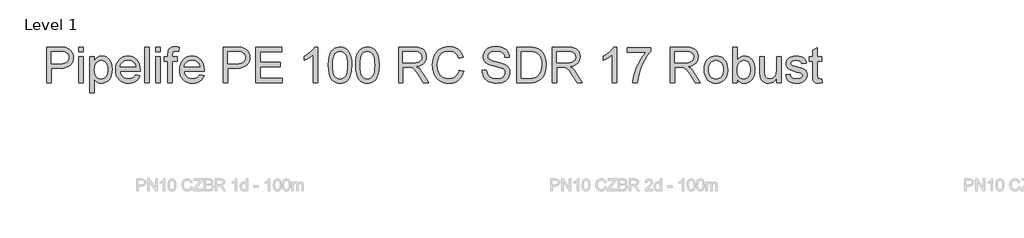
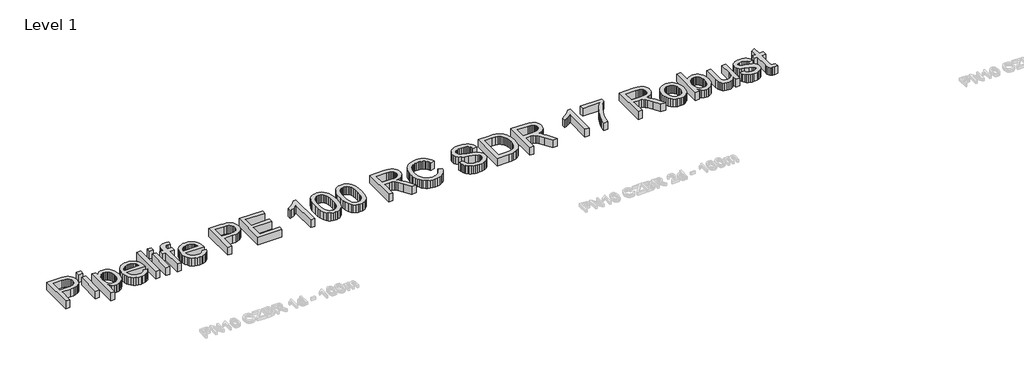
# One storey, part 4 of 13: 1 proxy.
"""IFC4 building model written with IfcOpenShell, lengths in millimetres."""

from ifc_helpers import new_model, si_unit, origin, origin_with_axes, place, context, project, spatial, polyline, outline, extrude, element, save

model = new_model("IFC4")

# Units and contexts
model_context = context("Model", 3, world=origin())
ifc_project = project(units=[si_unit("LENGTHUNIT", "METRE", prefix="MILLI")], contexts=[model_context])

# Site, building, storey
site = spatial("IfcSite", under=ifc_project)
building = spatial("IfcBuilding", under=site)
storey = spatial("IfcBuildingStorey", under=building, Name="Level 1", Elevation=0.0)

# Proxy
placement = place(None, origin())
element("IfcBuildingElementProxy", 1, Name="600mm Arial", ObjectType="600mm Arial", at=placement, inside=storey, context=model_context, shape_type="SweptSolid", body=[
    extrude(outline(polyline([(-16966.7426717, -19009.5373902), (-16966.7426717, -18406.7995293), (-16743.3647242, -18406.7995293), (-16691.3462101, -18408.2342691), (-16653.3072118, -18412.5384884), (-16613.152892, -18423.2622486), (-16580.0986947, -18440.7182492), (-16553.4824324, -18465.6974367), (-16532.6419174, -18498.9907573), (-16519.1774363, -18538.2621602), (-16514.689276, -18581.175595), (-16517.7197039, -18618.1753266), (-16526.8109877, -18652.2136083), (-16541.9631274, -18683.2904398), (-16563.176123, -18711.4058213), (-16592.2985814, -18734.7111457), (-16631.1791098, -18751.357806), (-16679.8177081, -18761.3458021), (-16738.2143763, -18764.6751342), (-16891.4004391, -18764.6751342), (-16891.4004391, -19009.5373902), (-16966.7426717, -19009.5373902)]), holes=[polyline([(-16891.4004391, -18689.3329016), (-16733.7997923, -18689.3329016), (-16697.5634158, -18687.6038562), (-16666.992422, -18682.4167201), (-16642.0868109, -18673.7714932), (-16622.8465826, -18661.6681755), (-16608.4899877, -18646.4286639), (-16598.2352771, -18628.374855), (-16592.0824507, -18607.5067488), (-16590.0315086, -18583.8243453), (-16594.8691569, -18549.9792018), (-16609.3821016, -18521.431559), (-16631.767721, -18499.9472504), (-16660.2233933, -18487.2921098), (-16689.2860709, -18483.4293489), (-16735.5656259, -18482.1417619), (-16891.4004391, -18482.1417619), (-16891.4004391, -18689.3329016)])]), origin_with_axes(), (0.0, 0.0, 1.0), 150.0),
    extrude(outline(polyline([(-16420.5114852, -19009.5373902), (-16420.5114852, -18566.9017736), (-16345.1692526, -18566.9017736), (-16345.1692526, -19009.5373902), (-16420.5114852, -19009.5373902)])), origin_with_axes(), (0.0, 0.0, 1.0), 150.0),
    extrude(outline(polyline([(-16420.5114852, -18482.1417619), (-16420.5114852, -18406.7995293), (-16345.1692526, -18406.7995293), (-16345.1692526, -18482.1417619), (-16420.5114852, -18482.1417619)])), origin_with_axes(), (0.0, 0.0, 1.0), 150.0),
    extrude(outline(polyline([(-16232.1559037, -19179.0574135), (-16232.1559037, -18566.9017736), (-16156.8136711, -18566.9017736), (-16156.8136711, -18640.7724782), (-16132.2391538, -18604.3337666), (-16104.7215806, -18578.3061154), (-16072.6422706, -18562.6895247), (-16034.3825431, -18557.4839945), (-16008.1065716, -18559.3050104), (-15983.4308868, -18564.768058), (-15960.3554886, -18573.8731374), (-15938.8803772, -18586.6202485), (-15919.4746019, -18602.6782976), (-15902.6072124, -18621.7161909), (-15888.2782087, -18643.7339283), (-15876.4875908, -18668.7315098), (-15860.7054532, -18724.2449029), (-15855.4447407, -18784.8350675), (-15861.3860349, -18849.269599), (-15868.8126527, -18878.9346834), (-15879.2099175, -18906.8983135), (-15892.4352753, -18932.429324), (-15908.3461716, -18954.7965493), (-15926.9426064, -18973.9999894), (-15948.2245798, -18990.0396444), (-15971.1482267, -19002.6901865), (-15994.6696817, -19011.726288), (-16018.788945, -19017.1479489), (-16043.5060166, -19018.9551692), (-16078.1421064, -19014.117521), (-16109.0625881, -18999.6045763), (-16135.5316977, -18977.6972035), (-16156.8136711, -18950.6762709), (-16156.8136711, -19179.0574135), (-16232.1559037, -19179.0574135)]), holes=[polyline([(-16156.8136711, -18791.751249), (-16154.7765246, -18828.0612019), (-16148.6650849, -18859.2943833), (-16138.4793522, -18885.4507932), (-16124.2193263, -18906.5304315), (-16107.0530327, -18922.7540275), (-16088.1484967, -18934.3423104), (-16067.5057182, -18941.2952801), (-16045.1246974, -18943.6129366), (-16022.4217797, -18941.2125066), (-16001.4019222, -18934.0112166), (-15982.0651249, -18922.0090665), (-15964.4113876, -18905.2060563), (-15949.7007063, -18883.3630629), (-15939.1930769, -18856.2409628), (-15932.8884992, -18823.8397561), (-15930.7869733, -18786.1594427), (-15932.8379154, -18750.1621895), (-15938.9907418, -18718.9841904), (-15949.2454524, -18692.6254454), (-15963.6020472, -18671.0859546), (-15980.8097276, -18654.3473238), (-15999.6176946, -18642.391159), (-16020.0259482, -18635.2174601), (-16042.0344886, -18632.8262271), (-16063.9740511, -18635.3692114), (-16084.6168295, -18642.9981643), (-16103.962824, -18655.7130857), (-16122.0120344, -18673.5139758), (-16137.2377504, -18696.1617111), (-16148.1132619, -18723.4171684), (-16154.6385688, -18755.2803477), (-16156.8136711, -18791.751249)])]), origin_with_axes(), (0.0, 0.0, 1.0), 150.0),
    extrude(outline(polyline([(-15460.7809362, -18877.6884831), (-15386.9102316, -18887.1062622), (-15398.2363985, -18916.6931716), (-15413.5264939, -18942.766808), (-15432.7805179, -18965.3271714), (-15455.9984703, -18984.3742617), (-15482.9412279, -18999.5034087), (-15513.3696674, -19010.3099424), (-15547.2837889, -19016.7938625), (-15584.6835922, -19018.9551692), (-15631.4321967, -19015.2257655), (-15673.0856356, -19004.0375543), (-15709.6439089, -18985.3905357), (-15741.1070165, -18959.2847096), (-15766.4081008, -18926.446643), (-15784.4803038, -18887.6029029), (-15795.3236256, -18842.7534891), (-15798.9380662, -18791.8984018), (-15795.2868374, -18739.3188677), (-15784.333151, -18692.9749333), (-15766.077007, -18652.8665988), (-15740.5184054, -18618.9938641), (-15709.1380712, -18592.0832961), (-15673.4167294, -18572.8614619), (-15633.3543802, -18561.3283613), (-15588.9510233, -18557.4839945), (-15545.9778078, -18561.3191643), (-15507.1156735, -18572.8246737), (-15472.3646205, -18592.0005227), (-15441.7246489, -18618.8467113), (-15416.7132717, -18652.6458696), (-15398.8480023, -18692.6806277), (-15388.1288407, -18738.9509857), (-15384.5557868, -18791.4569434), (-15384.9972452, -18811.7640296), (-15723.5958336, -18811.7640296), (-15719.2318334, -18841.8291856), (-15710.5544168, -18868.1603394), (-15697.5635839, -18890.757491), (-15680.2593345, -18909.6206403), (-15659.598162, -18924.4922699), (-15636.5365594, -18935.1148625), (-15611.0745268, -18941.4884181), (-15583.2120642, -18943.6129366), (-15543.1129267, -18939.6765993), (-15509.3413596, -18927.8675872), (-15481.8973627, -18907.4501365), (-15460.7809362, -18877.6884831)]), holes=[polyline([(-15723.5958336, -18736.4217969), (-15459.8980194, -18736.4217969), (-15470.0883507, -18696.6169651), (-15478.8531392, -18680.9635862), (-15490.064343, -18668.1428986), (-15510.6105525, -18652.6918548), (-15533.9894533, -18641.655395), (-15560.2010454, -18635.0335191), (-15589.2453289, -18632.8262271), (-15615.7374311, -18634.5874622), (-15640.0314384, -18639.8711673), (-15662.1273507, -18648.6773426), (-15682.0251681, -18661.0059879), (-15698.7224122, -18676.2868863), (-15711.2166044, -18693.9498206), (-15719.5077449, -18713.9947908), (-15723.5958336, -18736.4217969)])]), origin_with_axes(), (0.0, 0.0, 1.0), 150.0),
    extrude(outline(polyline([(-15309.2135542, -19009.5373902), (-15309.2135542, -18406.7995293), (-15233.8713216, -18406.7995293), (-15233.8713216, -19009.5373902), (-15309.2135542, -19009.5373902)])), origin_with_axes(), (0.0, 0.0, 1.0), 150.0),
    extrude(outline(polyline([(-15120.8579727, -18482.1417619), (-15120.8579727, -18406.7995293), (-15045.5157401, -18406.7995293), (-15045.5157401, -18482.1417619), (-15120.8579727, -18482.1417619)])), origin_with_axes(), (0.0, 0.0, 1.0), 150.0),
    extrude(outline(polyline([(-15120.8579727, -19009.5373902), (-15120.8579727, -18566.9017736), (-15045.5157401, -18566.9017736), (-15045.5157401, -19009.5373902), (-15120.8579727, -19009.5373902)])), origin_with_axes(), (0.0, 0.0, 1.0), 150.0),
    extrude(outline(polyline([(-14913.666833, -19009.5373902), (-14913.666833, -18642.2440062), (-14979.5912865, -18642.2440062), (-14979.5912865, -18566.9017736), (-14913.666833, -18566.9017736), (-14913.666833, -18522.3144758), (-14911.6802702, -18485.4159116), (-14905.7205819, -18459.480231), (-14890.5638437, -18434.4274671), (-14867.1665488, -18414.5986276), (-14834.4250512, -18401.6859695), (-14791.235705, -18397.3817502), (-14758.5309956, -18399.4418894), (-14722.5153483, -18405.6223069), (-14733.5518082, -18476.25565), (-14776.9618836, -18472.7239828), (-14805.6014969, -18475.8509798), (-14824.418661, -18485.2319706), (-14834.8481155, -18503.1478238), (-14838.3246004, -18531.8794076), (-14838.3246004, -18566.9017736), (-14753.5645887, -18566.9017736), (-14753.5645887, -18642.2440062), (-14838.3246004, -18642.2440062), (-14838.3246004, -19009.5373902), (-14913.666833, -19009.5373902)])), origin_with_axes(), (0.0, 0.0, 1.0), 150.0),
    extrude(outline(polyline([(-14377.7363424, -18877.6884831), (-14303.8656378, -18887.1062622), (-14315.1918047, -18916.6931716), (-14330.4819001, -18942.766808), (-14349.7359241, -18965.3271714), (-14372.9538765, -18984.3742617), (-14399.8966341, -18999.5034087), (-14430.3250736, -19010.3099424), (-14464.2391951, -19016.7938625), (-14501.6389984, -19018.9551692), (-14548.3876029, -19015.2257655), (-14590.0410418, -19004.0375543), (-14626.5993151, -18985.3905357), (-14658.0624227, -18959.2847096), (-14683.363507, -18926.446643), (-14701.43571, -18887.6029029), (-14712.2790318, -18842.7534891), (-14715.8934724, -18791.8984018), (-14712.2422436, -18739.3188677), (-14701.2885572, -18692.9749333), (-14683.0324132, -18652.8665988), (-14657.4738116, -18618.9938641), (-14626.0934774, -18592.0832961), (-14590.3721356, -18572.8614619), (-14550.3097864, -18561.3283613), (-14505.9064295, -18557.4839945), (-14462.933214, -18561.3191643), (-14424.0710797, -18572.8246737), (-14389.3200267, -18592.0005227), (-14358.6800551, -18618.8467113), (-14333.6686779, -18652.6458696), (-14315.8034085, -18692.6806277), (-14305.0842469, -18738.9509857), (-14301.511193, -18791.4569434), (-14301.9526514, -18811.7640296), (-14640.5512398, -18811.7640296), (-14636.1872396, -18841.8291856), (-14627.509823, -18868.1603394), (-14614.5189901, -18890.757491), (-14597.2147407, -18909.6206403), (-14576.5535682, -18924.4922699), (-14553.4919656, -18935.1148625), (-14528.029933, -18941.4884181), (-14500.1674704, -18943.6129366), (-14460.0683329, -18939.6765993), (-14426.2967658, -18927.8675872), (-14398.8527689, -18907.4501365), (-14377.7363424, -18877.6884831)]), holes=[polyline([(-14640.5512398, -18736.4217969), (-14376.8534256, -18736.4217969), (-14387.0437569, -18696.6169651), (-14395.8085454, -18680.9635862), (-14407.0197492, -18668.1428986), (-14427.5659587, -18652.6918548), (-14450.9448595, -18641.655395), (-14477.1564516, -18635.0335191), (-14506.2007351, -18632.8262271), (-14532.6928373, -18634.5874622), (-14556.9868446, -18639.8711673), (-14579.0827569, -18648.6773426), (-14598.9805743, -18661.0059879), (-14615.6778184, -18676.2868863), (-14628.1720106, -18693.9498206), (-14636.4631511, -18713.9947908), (-14640.5512398, -18736.4217969)])]), origin_with_axes(), (0.0, 0.0, 1.0), 150.0),
    extrude(outline(polyline([(-13981.3067044, -19009.5373902), (-13981.3067044, -18406.7995293), (-13757.928757, -18406.7995293), (-13705.9102428, -18408.2342691), (-13667.8712445, -18412.5384884), (-13627.7169248, -18423.2622486), (-13594.6627275, -18440.7182492), (-13568.0464651, -18465.6974367), (-13547.2059501, -18498.9907573), (-13533.7414691, -18538.2621602), (-13529.2533087, -18581.175595), (-13532.2837367, -18618.1753266), (-13541.3750205, -18652.2136083), (-13556.5271602, -18683.2904398), (-13577.7401557, -18711.4058213), (-13606.8626142, -18734.7111457), (-13645.7431425, -18751.357806), (-13694.3817408, -18761.3458021), (-13752.778409, -18764.6751342), (-13905.9644718, -18764.6751342), (-13905.9644718, -19009.5373902), (-13981.3067044, -19009.5373902)]), holes=[polyline([(-13905.9644718, -18689.3329016), (-13748.3638251, -18689.3329016), (-13712.1274486, -18687.6038562), (-13681.5564548, -18682.4167201), (-13656.6508437, -18673.7714932), (-13637.4106153, -18661.6681755), (-13623.0540205, -18646.4286639), (-13612.7993099, -18628.374855), (-13606.6464835, -18607.5067488), (-13604.5955414, -18583.8243453), (-13609.4331896, -18549.9792018), (-13623.9461343, -18521.431559), (-13646.3317537, -18499.9472504), (-13674.787426, -18487.2921098), (-13703.8501037, -18483.4293489), (-13750.1296587, -18482.1417619), (-13905.9644718, -18482.1417619), (-13905.9644718, -18689.3329016)])]), origin_with_axes(), (0.0, 0.0, 1.0), 150.0),
    extrude(outline(polyline([(-13425.6577389, -19009.5373902), (-13425.6577389, -18406.7995293), (-12992.4399014, -18406.7995293), (-12992.4399014, -18482.1417619), (-13350.3155063, -18482.1417619), (-13350.3155063, -18661.0795643), (-13011.2754595, -18661.0795643), (-13011.2754595, -18736.4217969), (-13350.3155063, -18736.4217969), (-13350.3155063, -18934.1951576), (-12983.0221223, -18934.1951576), (-12983.0221223, -19009.5373902), (-13425.6577389, -19009.5373902)])), origin_with_axes(), (0.0, 0.0, 1.0), 150.0),
    extrude(outline(polyline([(-12380.2842614, -19009.5373902), (-12455.626494, -19009.5373902), (-12455.626494, -18539.8256587), (-12487.0804046, -18565.2646987), (-12526.9956011, -18590.6669505), (-12568.8973603, -18612.8686289), (-12606.3109592, -18628.7059488), (-12606.3109592, -18557.4839945), (-12547.1371403, -18525.2943199), (-12495.8727843, -18486.9978042), (-12455.4609471, -18446.2732674), (-12428.8446848, -18406.7995293), (-12380.2842614, -18406.7995293), (-12380.2842614, -19009.5373902)])), origin_with_axes(), (0.0, 0.0, 1.0), 150.0),
    extrude(outline(polyline([(-12201.346459, -18713.0245021), (-12195.8098349, -18616.5474488), (-12188.8890549, -18575.6343724), (-12179.1999628, -18539.6049295), (-12166.7839455, -18508.1648145), (-12151.6823896, -18481.0197218), (-12133.8952951, -18458.1696514), (-12113.4226621, -18439.6146032), (-12090.1955126, -18425.2580084), (-12064.1448689, -18415.0032978), (-12035.2707308, -18408.8504714), (-12003.5730984, -18406.7995293), (-11957.1463906, -18411.6555716), (-11915.5757251, -18426.2236986), (-11880.8108766, -18449.9336932), (-11854.8016195, -18482.2153383), (-11835.156721, -18522.7927223), (-11819.484948, -18571.3899339), (-11809.2210403, -18633.1021386), (-11805.7997377, -18713.0245021), (-11811.2811795, -18808.9497323), (-11818.1329816, -18849.7248529), (-11827.7255047, -18885.7083106), (-11840.044953, -18917.1622212), (-11855.077531, -18944.3487006), (-11872.8232387, -18967.2677489), (-11893.2820762, -18985.9193661), (-11916.5368168, -19000.37253), (-11942.670234, -19010.6962185), (-11971.6823279, -19016.8904315), (-12003.5730984, -19018.9551692), (-12045.0701874, -19015.3683198), (-12081.8583869, -19004.6077714), (-12113.9376969, -18986.6735242), (-12141.3081173, -18961.565578), (-12167.5748918, -18916.1781368), (-12186.3368736, -18859.6254771), (-12197.5940626, -18791.9075989), (-12201.346459, -18713.0245021)]), holes=[polyline([(-12126.0042263, -18712.8773493), (-12123.7969344, -18778.37414), (-12117.1750585, -18831.390534), (-12106.1385986, -18871.9265313), (-12090.6875548, -18899.982132), (-12071.9991495, -18919.070609), (-12051.2506049, -18932.7052355), (-12028.4419212, -18940.8860113), (-12003.5730984, -18943.6129366), (-11978.7042755, -18940.8768143), (-11955.8955918, -18932.6684473), (-11935.1470472, -18918.9878356), (-11916.4586419, -18899.8349792), (-11901.0075981, -18871.7333933), (-11889.9711382, -18831.206593), (-11883.3492623, -18778.2545783), (-11881.1419704, -18712.8773493), (-11883.2756859, -18649.1142024), (-11889.6768326, -18597.031309), (-11900.3454105, -18556.6286689), (-11915.2814195, -18527.9062821), (-11933.6571252, -18507.8843045), (-11954.644793, -18493.5828919), (-11978.244423, -18485.0020444), (-12004.4560151, -18482.1417619), (-12029.1960793, -18484.6617535), (-12051.6184869, -18492.2217286), (-12071.723238, -18504.8216869), (-12089.5103324, -18522.4616286), (-12105.476411, -18553.7315981), (-12116.8807529, -18595.8908748), (-12123.723358, -18648.9394585), (-12126.0042263, -18712.8773493)])]), origin_with_axes(), (0.0, 0.0, 1.0), 150.0),
    extrude(outline(polyline([(-11739.8752842, -18713.0245021), (-11734.3386602, -18616.5474488), (-11727.4178801, -18575.6343724), (-11717.7287881, -18539.6049295), (-11705.3127708, -18508.1648145), (-11690.2112149, -18481.0197218), (-11672.4241204, -18458.1696514), (-11651.9514874, -18439.6146032), (-11628.7243379, -18425.2580084), (-11602.6736941, -18415.0032978), (-11573.799556, -18408.8504714), (-11542.1019236, -18406.7995293), (-11495.6752158, -18411.6555716), (-11454.1045504, -18426.2236986), (-11419.3397018, -18449.9336932), (-11393.3304448, -18482.2153383), (-11373.6855462, -18522.7927223), (-11358.0137732, -18571.3899339), (-11347.7498655, -18633.1021386), (-11344.328563, -18713.0245021), (-11349.8100047, -18808.9497323), (-11356.6618069, -18849.7248529), (-11366.2543299, -18885.7083106), (-11378.5737782, -18917.1622212), (-11393.6063562, -18944.3487006), (-11411.352064, -18967.2677489), (-11431.8109014, -18985.9193661), (-11455.0656421, -19000.37253), (-11481.1990593, -19010.6962185), (-11510.2111531, -19016.8904315), (-11542.1019236, -19018.9551692), (-11583.5990127, -19015.3683198), (-11620.3872122, -19004.6077714), (-11652.4665222, -18986.6735242), (-11679.8369426, -18961.565578), (-11706.1037171, -18916.1781368), (-11724.8656988, -18859.6254771), (-11736.1228879, -18791.9075989), (-11739.8752842, -18713.0245021)]), holes=[polyline([(-11664.5330516, -18712.8773493), (-11662.3257596, -18778.37414), (-11655.7038837, -18831.390534), (-11644.6674239, -18871.9265313), (-11629.2163801, -18899.982132), (-11610.5279747, -18919.070609), (-11589.7794302, -18932.7052355), (-11566.9707465, -18940.8860113), (-11542.1019236, -18943.6129366), (-11517.2331007, -18940.8768143), (-11494.424417, -18932.6684473), (-11473.6758725, -18918.9878356), (-11454.9874671, -18899.8349792), (-11439.5364233, -18871.7333933), (-11428.4999635, -18831.206593), (-11421.8780876, -18778.2545783), (-11419.6707956, -18712.8773493), (-11421.8045112, -18649.1142024), (-11428.2056579, -18597.031309), (-11438.8742358, -18556.6286689), (-11453.8102448, -18527.9062821), (-11472.1859504, -18507.8843045), (-11493.1736182, -18493.5828919), (-11516.7732482, -18485.0020444), (-11542.9848404, -18482.1417619), (-11567.7249046, -18484.6617535), (-11590.1473122, -18492.2217286), (-11610.2520632, -18504.8216869), (-11628.0391577, -18522.4616286), (-11644.0052363, -18553.7315981), (-11655.4095781, -18595.8908748), (-11662.2521832, -18648.9394585), (-11664.5330516, -18712.8773493)])]), origin_with_axes(), (0.0, 0.0, 1.0), 150.0),
    extrude(outline(polyline([(-11014.7062953, -19009.5373902), (-11014.7062953, -18406.7995293), (-10754.9816067, -18406.7995293), (-10685.1759981, -18410.8646253), (-10634.3898887, -18423.0599135), (-10614.7909754, -18432.753604), (-10597.2705954, -18445.5742916), (-10581.8287486, -18461.5219761), (-10568.4654352, -18480.5966575), (-10557.6818942, -18501.7728649), (-10549.9793649, -18524.025127), (-10545.3578473, -18547.3534441), (-10543.8173415, -18571.7578159), (-10546.3695228, -18602.7150858), (-10554.0260669, -18631.1339699), (-10566.7869736, -18657.0144683), (-10584.652243, -18680.3565809), (-10607.8518013, -18700.4153467), (-10636.6155748, -18716.4458046), (-10670.9435634, -18728.4479547), (-10710.8357673, -18736.4217969), (-10686.0037326, -18752.6453929), (-10668.0143031, -18768.6482597), (-10637.1490037, -18805.2525182), (-10606.9458919, -18846.1977843), (-10506.4405308, -19009.5373902), (-10593.9964456, -19009.5373902), (-10672.428887, -18884.6046646), (-10729.0827143, -18801.9047921), (-10750.1439585, -18777.7901273), (-10768.8875461, -18762.8357242), (-10804.7192525, -18748.4883264), (-10848.4236335, -18745.839576), (-10939.3640627, -18745.839576), (-10939.3640627, -19009.5373902), (-11014.7062953, -19009.5373902)]), holes=[polyline([(-10939.3640627, -18670.4973434), (-10770.7269561, -18670.4973434), (-10722.2952914, -18667.8301989), (-10684.7161456, -18659.8287656), (-10656.4260202, -18645.9596143), (-10635.8614167, -18625.6893164), (-10623.3350347, -18601.1699814), (-10619.1595741, -18574.5537191), (-10621.1507354, -18555.2858996), (-10627.1242193, -18537.8023078), (-10637.0800258, -18522.1029436), (-10651.0181549, -18508.1878071), (-10669.2605033, -18496.7926623), (-10692.1289678, -18488.6532732), (-10719.6235485, -18483.7696397), (-10751.7442452, -18482.1417619), (-10939.3640627, -18482.1417619), (-10939.3640627, -18670.4973434)])]), origin_with_axes(), (0.0, 0.0, 1.0), 150.0),
    extrude(outline(polyline([(-9988.168376, -18795.2829162), (-9912.8261434, -18814.7070855), (-9927.7345612, -18861.5614561), (-9947.5909919, -18902.5021237), (-9972.3954354, -18937.5290881), (-10002.1478918, -18966.6423495), (-10036.1769763, -18989.5292082), (-10073.8113045, -19005.8769643), (-10115.0508761, -19015.685618), (-10159.8956913, -19018.9551692), (-10205.839554, -19016.4811628), (-10247.2860593, -19009.0591436), (-10284.2352072, -18996.6891115), (-10316.6869977, -18979.3710666), (-10345.0874877, -18957.3625262), (-10369.8827342, -18930.9210078), (-10391.0727371, -18900.0465114), (-10408.6574965, -18864.7390369), (-10422.4668669, -18826.5252946), (-10432.3307029, -18786.9319949), (-10438.2490044, -18745.9591377), (-10440.2217716, -18703.606723), (-10437.9914871, -18658.1640995), (-10431.3006333, -18615.7197143), (-10420.1492103, -18576.2735674), (-10404.5372181, -18539.8256587), (-10384.8141446, -18506.9783951), (-10361.3294778, -18478.3341832), (-10334.0832175, -18453.8930232), (-10303.0753638, -18433.6549149), (-10269.358979, -18417.7854054), (-10233.9871252, -18406.4500414), (-10196.9598023, -18399.648823), (-10158.2770105, -18397.3817502), (-10115.1842333, -18400.3156091), (-10075.6691085, -18409.1171858), (-10039.7316361, -18423.7864804), (-10007.3718161, -18444.3234928), (-9979.1230774, -18470.185597), (-9955.5188489, -18500.8301672), (-9936.5591306, -18536.2572034), (-9922.2439224, -18576.4667054), (-9997.5861551, -18594.4193468), (-10009.4503494, -18564.7910506), (-10023.7057767, -18539.4761708), (-10040.352437, -18518.4747074), (-10059.3903302, -18501.7866604), (-10080.9298211, -18489.071739), (-10105.081274, -18479.9896522), (-10131.8446892, -18474.5404002), (-10161.2200665, -18472.7239828), (-10195.0192248, -18474.7381367), (-10225.9305095, -18480.7805985), (-10253.9539204, -18490.8513681), (-10279.0894578, -18504.9504456), (-10301.0198232, -18522.4432345), (-10319.4277185, -18542.6951383), (-10334.3131438, -18565.7061571), (-10345.6760989, -18591.4762908), (-10360.078679, -18646.6218019), (-10364.879539, -18703.4595702), (-10359.1957622, -18773.0628437), (-10352.0910412, -18804.3328133), (-10342.1444317, -18833.2483381), (-10329.1949855, -18859.2346025), (-10313.0817541, -18881.7167909), (-10293.8047376, -18900.6949034), (-10271.3639359, -18916.1689398), (-10246.8491994, -18928.1756884), (-10221.3503786, -18936.7519374), (-10194.8674735, -18941.8976868), (-10167.400484, -18943.6129366), (-10134.6451909, -18941.276886), (-10104.5110569, -18934.268734), (-10076.9980822, -18922.5884806), (-10052.1062667, -18906.2361259), (-10030.4242216, -18885.2852463), (-10012.5405582, -18859.8094181), (-9998.4552763, -18829.8086414), (-9988.168376, -18795.2829162)])), origin_with_axes(), (0.0, 0.0, 1.0), 150.0),
    extrude(outline(polyline([(-9602.0394338, -18802.3462505), (-9526.6972012, -18802.3462505), (-9518.0519743, -18844.1560392), (-9502.4169895, -18877.7620595), (-9478.0264133, -18904.4335041), (-9443.1144119, -18925.4395661), (-9400.4401005, -18939.069594), (-9352.7625939, -18943.6129366), (-9310.7872583, -18940.17324), (-9274.0358469, -18929.85415), (-9244.2557994, -18913.5201894), (-9223.1945552, -18892.0358809), (-9210.6681733, -18867.3693931), (-9206.4927126, -18841.4888948), (-9209.6197096, -18816.270584), (-9219.0007005, -18794.4735758), (-9238.0569878, -18775.8771409), (-9270.2098742, -18760.2605502), (-9379.9122851, -18731.4921782), (-9451.9251857, -18712.454285), (-9498.0024056, -18694.3360967), (-9535.507975, -18668.9890272), (-9562.0874492, -18638.2708806), (-9577.9247691, -18602.8438445), (-9583.2038757, -18563.3701064), (-9581.5713993, -18540.9339032), (-9576.6739703, -18519.2426611), (-9568.5115885, -18498.29638), (-9557.084254, -18478.0950599), (-9542.5207255, -18459.4618369), (-9524.9497617, -18443.2198468), (-9504.3713626, -18429.3690897), (-9480.7855282, -18417.9095655), (-9427.7737327, -18402.513704), (-9369.0965545, -18397.3817502), (-9305.5265457, -18402.7528273), (-9249.9027881, -18418.8660587), (-9225.5673941, -18430.8682088), (-9204.2118443, -18445.3903506), (-9185.8361386, -18462.432484), (-9170.4402771, -18481.9946091), (-9158.1438214, -18503.5065088), (-9149.0663332, -18526.3979659), (-9143.2078124, -18550.6689805), (-9140.5682591, -18576.3195526), (-9215.9104917, -18576.3195526), (-9220.950475, -18552.2784643), (-9229.7428547, -18531.3643728), (-9242.2876308, -18513.5772784), (-9258.5848031, -18498.9171809), (-9278.9378745, -18487.4576567), (-9303.6503475, -18479.2722823), (-9332.7222222, -18474.3610577), (-9366.1534985, -18472.7239828), (-9400.6516326, -18474.3426636), (-9430.1281775, -18479.1987059), (-9454.5831331, -18487.2921098), (-9474.0164995, -18498.6228753), (-9488.8237498, -18512.2437061), (-9499.4003572, -18527.2073063), (-9505.7463216, -18543.5136757), (-9507.8616431, -18561.1628144), (-9506.3625239, -18576.3471438), (-9501.8651666, -18590.1151275), (-9494.3695709, -18602.4667655), (-9483.875737, -18613.4020578), (-9467.3578354, -18623.7579359), (-9441.3485783, -18634.2241787), (-9360.8559978, -18655.487758), (-9277.7882433, -18675.6844795), (-9227.5355627, -18693.3060271), (-9184.5853398, -18720.6396594), (-9167.9800663, -18736.7069055), (-9154.6213513, -18754.3744383), (-9144.3528451, -18773.5502873), (-9137.0181978, -18794.142482), (-9131.15048, -18839.5759084), (-9132.8381387, -18863.1433487), (-9137.9011146, -18886.0210103), (-9146.3394079, -18908.2088931), (-9158.1530185, -18929.7069972), (-9173.1350127, -18949.6829896), (-9191.078457, -18967.3045371), (-9211.9833514, -18982.5716399), (-9235.8496958, -18995.484298), (-9261.9831131, -19005.7528041), (-9289.6892258, -19013.0874514), (-9349.8195379, -19018.9551692), (-9388.3597755, -19017.3732767), (-9423.6350603, -19012.6275989), (-9455.6453924, -19004.718136), (-9484.3907718, -18993.644888), (-9510.0459424, -18979.3894607), (-9532.7856482, -18961.93346), (-9552.6098893, -18941.276886), (-9569.5186655, -18917.4197386), (-9583.1394963, -18891.13457), (-9593.0999014, -18863.1939325), (-9599.3998805, -18833.597826), (-9602.0394338, -18802.3462505)])), origin_with_axes(), (0.0, 0.0, 1.0), 150.0),
    extrude(outline(polyline([(-9018.1371311, -19009.5373902), (-9018.1371311, -18406.7995293), (-8810.2102274, -18406.7995293), (-8748.0749584, -18408.970033), (-8702.641532, -18415.4815444), (-8654.5961435, -18432.2201751), (-8614.0555476, -18458.5973142), (-8591.7159134, -18480.1551991), (-8572.3745175, -18504.5089872), (-8556.0313599, -18531.6586784), (-8542.6864405, -18561.6042728), (-8532.3213653, -18594.0698589), (-8524.9177402, -18628.7795252), (-8518.99484, -18704.9310982), (-8523.0047538, -18769.623147), (-8535.034495, -18826.5528858), (-8553.3550184, -18875.0213386), (-8576.2372785, -18914.3295298), (-8602.5776293, -18945.3603761), (-8631.272425, -18968.9967943), (-8664.2162576, -18986.5263714), (-8703.3037196, -18999.2366943), (-8748.6083873, -19006.9622162), (-8800.2038371, -19009.5373902), (-9018.1371311, -19009.5373902)]), holes=[polyline([(-8942.7948985, -18934.1951576), (-8809.4744634, -18934.1951576), (-8754.3289524, -18931.4728308), (-8712.5007695, -18923.3058505), (-8680.9364943, -18910.1724633), (-8656.5827062, -18892.5509157), (-8630.4079023, -18859.9381768), (-8610.7446096, -18817.7237179), (-8598.4389569, -18765.7235979), (-8594.3370726, -18703.7538758), (-8596.346628, -18660.0127066), (-8602.3752942, -18621.6426145), (-8612.4230712, -18588.6435995), (-8626.489959, -18561.0156616), (-8643.4355234, -18538.1334015), (-8662.1193303, -18519.3714198), (-8682.5413795, -18504.7297164), (-8704.7016712, -18494.2082913), (-8748.0381702, -18485.1583942), (-8811.5346026, -18482.1417619), (-8942.7948985, -18482.1417619), (-8942.7948985, -18934.1951576)])]), origin_with_axes(), (0.0, 0.0, 1.0), 150.0),
    extrude(outline(polyline([(-8415.3992702, -19009.5373902), (-8415.3992702, -18406.7995293), (-8155.6745816, -18406.7995293), (-8085.868973, -18410.8646253), (-8035.0828636, -18423.0599135), (-8015.4839503, -18432.753604), (-7997.9635703, -18445.5742916), (-7982.5217235, -18461.5219761), (-7969.15841, -18480.5966575), (-7958.3748691, -18501.7728649), (-7950.6723398, -18524.025127), (-7946.0508222, -18547.3534441), (-7944.5103164, -18571.7578159), (-7947.0624977, -18602.7150858), (-7954.7190417, -18631.1339699), (-7967.4799484, -18657.0144683), (-7985.3452178, -18680.3565809), (-8008.5447762, -18700.4153467), (-8037.3085497, -18716.4458046), (-8071.6365383, -18728.4479547), (-8111.5287422, -18736.4217969), (-8086.6967075, -18752.6453929), (-8068.7072779, -18768.6482597), (-8037.8419785, -18805.2525182), (-8007.6388667, -18846.1977843), (-7907.1335057, -19009.5373902), (-7994.6894205, -19009.5373902), (-8073.1218619, -18884.6046646), (-8129.7756891, -18801.9047921), (-8150.8369334, -18777.7901273), (-8169.580521, -18762.8357242), (-8205.4122273, -18748.4883264), (-8249.1166084, -18745.839576), (-8340.0570376, -18745.839576), (-8340.0570376, -19009.5373902), (-8415.3992702, -19009.5373902)]), holes=[polyline([(-8340.0570376, -18670.4973434), (-8171.419931, -18670.4973434), (-8122.9882663, -18667.8301989), (-8085.4091205, -18659.8287656), (-8057.1189951, -18645.9596143), (-8036.5543916, -18625.6893164), (-8024.0280096, -18601.1699814), (-8019.852549, -18574.5537191), (-8021.8437103, -18555.2858996), (-8027.8171942, -18537.8023078), (-8037.7730007, -18522.1029436), (-8051.7111298, -18508.1878071), (-8069.9534782, -18496.7926623), (-8092.8219427, -18488.6532732), (-8120.3165233, -18483.7696397), (-8152.43722, -18482.1417619), (-8340.0570376, -18482.1417619), (-8340.0570376, -18670.4973434)])]), origin_with_axes(), (0.0, 0.0, 1.0), 150.0),
    extrude(outline(polyline([(-7322.9368973, -19009.5373902), (-7398.2791299, -19009.5373902), (-7398.2791299, -18539.8256587), (-7429.7330405, -18565.2646987), (-7469.648237, -18590.6669505), (-7511.5499962, -18612.8686289), (-7548.9635952, -18628.7059488), (-7548.9635952, -18557.4839945), (-7489.7897762, -18525.2943199), (-7438.5254202, -18486.9978042), (-7398.113583, -18446.2732674), (-7371.4973207, -18406.7995293), (-7322.9368973, -18406.7995293), (-7322.9368973, -19009.5373902)])), origin_with_axes(), (0.0, 0.0, 1.0), 150.0),
    extrude(outline(polyline([(-7143.9990949, -18491.559541), (-7143.9990949, -18416.2173083), (-6748.4523736, -18416.2173083), (-6748.4523736, -18477.1385667), (-6804.8302894, -18548.4892797), (-6860.6563822, -18639.2273738), (-6909.8973872, -18741.0755042), (-6929.7860076, -18793.0618286), (-6946.5200399, -18845.7563259), (-6964.4726812, -18924.0784027), (-6974.4790715, -19009.5373902), (-7049.8213041, -19009.5373902), (-7041.6727179, -18931.877501), (-7019.8757097, -18839.5759084), (-7004.0062001, -18790.2107432), (-6985.0188906, -18741.7376918), (-6962.9137813, -18694.1567542), (-6937.690872, -18647.4679305), (-6882.4349963, -18562.2480663), (-6823.7946063, -18491.559541), (-7143.9990949, -18491.559541)])), origin_with_axes(), (0.0, 0.0, 1.0), 150.0),
    extrude(outline(polyline([(-6418.830106, -19009.5373902), (-6418.830106, -18406.7995293), (-6159.1054174, -18406.7995293), (-6089.2998088, -18410.8646253), (-6038.5136994, -18423.0599135), (-6018.9147861, -18432.753604), (-6001.394406, -18445.5742916), (-5985.9525593, -18461.5219761), (-5972.5892458, -18480.5966575), (-5961.8057048, -18501.7728649), (-5954.1031756, -18524.025127), (-5949.481658, -18547.3534441), (-5947.9411521, -18571.7578159), (-5950.4933335, -18602.7150858), (-5958.1498775, -18631.1339699), (-5970.9107842, -18657.0144683), (-5988.7760536, -18680.3565809), (-6011.9756119, -18700.4153467), (-6040.7393854, -18716.4458046), (-6075.0673741, -18728.4479547), (-6114.959578, -18736.4217969), (-6090.1275433, -18752.6453929), (-6072.1381137, -18768.6482597), (-6041.2728143, -18805.2525182), (-6011.0697025, -18846.1977843), (-5910.5643414, -19009.5373902), (-5998.1202563, -19009.5373902), (-6076.5526977, -18884.6046646), (-6133.2065249, -18801.9047921), (-6154.2677691, -18777.7901273), (-6173.0113568, -18762.8357242), (-6208.8430631, -18748.4883264), (-6252.5474442, -18745.839576), (-6343.4878734, -18745.839576), (-6343.4878734, -19009.5373902), (-6418.830106, -19009.5373902)]), holes=[polyline([(-6343.4878734, -18670.4973434), (-6174.8507668, -18670.4973434), (-6126.4191021, -18667.8301989), (-6088.8399563, -18659.8287656), (-6060.5498309, -18645.9596143), (-6039.9852273, -18625.6893164), (-6027.4588454, -18601.1699814), (-6023.2833848, -18574.5537191), (-6025.2745461, -18555.2858996), (-6031.24803, -18537.8023078), (-6041.2038364, -18522.1029436), (-6055.1419655, -18508.1878071), (-6073.384314, -18496.7926623), (-6096.2527785, -18488.6532732), (-6123.7473591, -18483.7696397), (-6155.8680558, -18482.1417619), (-6343.4878734, -18482.1417619), (-6343.4878734, -18670.4973434)])]), origin_with_axes(), (0.0, 0.0, 1.0), 150.0),
    extrude(outline(polyline([(-5844.3455823, -18788.2195819), (-5840.2712892, -18730.89437), (-5828.0484099, -18681.4970151), (-5807.6769444, -18640.0275172), (-5779.1568928, -18606.4858763), (-5750.443703, -18585.047553), (-5718.7506691, -18569.7344649), (-5684.0777911, -18560.5466121), (-5646.4250689, -18557.4839945), (-5604.859002, -18561.2133982), (-5567.2752576, -18572.4016094), (-5533.6738359, -18591.048628), (-5504.0547368, -18617.1544541), (-5479.8802912, -18649.8361709), (-5462.61283, -18688.2108615), (-5452.2523533, -18732.278526), (-5448.7988611, -18782.0391644), (-5450.3255714, -18822.3682281), (-5454.9057022, -18858.1539492), (-5462.5392536, -18889.3963276), (-5473.2262256, -18916.0953634), (-5486.8332609, -18939.156966), (-5503.2270023, -18959.4870447), (-5522.4074498, -18977.0855997), (-5544.3746034, -18991.9526308), (-5568.2731375, -19003.7662414), (-5593.2477265, -19012.2045346), (-5619.2983703, -19017.2675106), (-5646.4250689, -19018.9551692), (-5688.5981411, -19015.2395611), (-5726.5313733, -19004.0927366), (-5760.2247656, -18985.5146959), (-5789.6783178, -18959.5054388), (-5813.595246, -18926.5064239), (-5830.6787662, -18886.9591094), (-5840.9288783, -18840.8634954), (-5844.3455823, -18788.2195819)]), holes=[polyline([(-5769.0033497, -18788.0724291), (-5766.8236489, -18824.6169068), (-5760.2845464, -18856.2593569), (-5749.3860423, -18882.9997794), (-5734.1281365, -18904.8381743), (-5715.5684899, -18921.8021328), (-5694.7647631, -18933.9192461), (-5671.7169561, -18941.189514), (-5646.4250689, -18943.6129366), (-5621.2619404, -18941.1757184), (-5598.3061039, -18933.8640638), (-5577.5575594, -18921.6779727), (-5559.0163068, -18904.6174451), (-5543.7584011, -18882.5629195), (-5532.859897, -18855.3948342), (-5526.3207945, -18823.1131891), (-5524.1410937, -18785.7179843), (-5526.3345901, -18750.3323349), (-5532.9150793, -18719.5176193), (-5543.8825613, -18693.2738374), (-5559.237036, -18671.6009894), (-5577.8472665, -18654.6370309), (-5598.5820154, -18642.5199177), (-5621.4412829, -18635.2496498), (-5646.4250689, -18632.8262271), (-5671.7169561, -18635.2404527), (-5694.7647631, -18642.4831295), (-5715.5684899, -18654.5542574), (-5734.1281365, -18671.4538366), (-5749.3860423, -18693.2278522), (-5760.2845464, -18719.9222895), (-5766.8236489, -18751.5371484), (-5769.0033497, -18788.0724291)])]), origin_with_axes(), (0.0, 0.0, 1.0), 150.0),
    extrude(outline(polyline([(-5288.6966168, -19009.5373902), (-5364.0388494, -19009.5373902), (-5364.0388494, -18406.7995293), (-5288.6966168, -18406.7995293), (-5288.6966168, -18630.3246295), (-5263.9197644, -18598.4568517), (-5235.9423387, -18575.6941533), (-5204.7643396, -18562.0365342), (-5170.3857671, -18557.4839945), (-5131.5742166, -18561.5858787), (-5094.8963817, -18573.8915315), (-5062.4491898, -18593.6284005), (-5036.3295681, -18620.0239337), (-5015.8569351, -18652.8206135), (-5000.350709, -18691.7609227), (-4990.583442, -18735.2261805), (-4987.3276863, -18781.597706), (-4990.6984051, -18835.1061422), (-5000.8105615, -18882.1766434), (-5017.6641554, -18922.8092098), (-5041.2591868, -18957.0038413), (-5069.5815019, -18984.1075473), (-5100.6169468, -19003.4673372), (-5134.3655213, -19015.0832112), (-5170.8272255, -19018.9551692), (-5206.3370351, -19013.9611712), (-5237.8185369, -18998.9791769), (-5265.2717307, -18974.0091865), (-5288.6966168, -18939.0511999), (-5288.6966168, -19009.5373902)]), holes=[polyline([(-5288.6966168, -18785.1293731), (-5283.5462689, -18847.9636179), (-5277.1083339, -18871.765583), (-5268.0952251, -18890.4907765), (-5249.839081, -18913.7317216), (-5228.621487, -18930.3323966), (-5204.4424428, -18940.2928016), (-5177.3019486, -18943.6129366), (-5154.7691764, -18941.1665214), (-5133.8182968, -18933.8272756), (-5114.4493098, -18921.5951992), (-5096.6622153, -18904.4702923), (-5081.7905857, -18882.4985402), (-5071.167993, -18855.725928), (-5064.7944375, -18824.1524557), (-5062.669919, -18787.7781235), (-5064.7070655, -18750.7140125), (-5070.8185051, -18718.8370376), (-5081.0042379, -18692.1471988), (-5095.2642637, -18670.6444962), (-5112.4121632, -18654.0990035), (-5131.261517, -18642.2807944), (-5151.8123249, -18635.1898689), (-5174.0645871, -18632.8262271), (-5196.5973593, -18635.2726424), (-5217.5482389, -18642.6118882), (-5236.917226, -18654.8439645), (-5254.7043204, -18671.9688714), (-5269.5759501, -18693.7198944), (-5280.1985427, -18719.830319), (-5286.5720983, -18750.3001452), (-5288.6966168, -18785.1293731)])]), origin_with_axes(), (0.0, 0.0, 1.0), 150.0),
    extrude(outline(polyline([(-4620.0343024, -19009.5373902), (-4620.0343024, -18933.4593936), (-4647.2943582, -18970.8637954), (-4679.0425744, -18997.5812253), (-4715.2789509, -19013.6116833), (-4756.0034878, -19018.9551692), (-4792.6997168, -19015.2027729), (-4826.85756, -19003.9455838), (-4855.5155675, -18987.0230121), (-4875.712289, -18966.2744675), (-4889.3055287, -18941.0745509), (-4898.1530907, -18910.7978627), (-4902.5676747, -18840.7531308), (-4902.5676747, -18566.9017736), (-4827.225442, -18566.9017736), (-4827.225442, -18805.2893064), (-4826.0850079, -18852.966813), (-4822.6637053, -18882.103067), (-4811.6824277, -18907.726048), (-4792.8652637, -18927.2053996), (-4767.4630119, -18939.5110524), (-4736.7264712, -18943.6129366), (-4704.224097, -18939.4190819), (-4673.81865, -18926.8375177), (-4648.7474921, -18907.0270722), (-4632.2479846, -18881.1465739), (-4623.0877229, -18845.7011436), (-4620.0343024, -18797.1959026), (-4620.0343024, -18566.9017736), (-4544.6920697, -18566.9017736), (-4544.6920697, -19009.5373902), (-4620.0343024, -19009.5373902)])), origin_with_axes(), (0.0, 0.0, 1.0), 150.0),
    extrude(outline(polyline([(-4469.3498371, -18877.6884831), (-4394.0076045, -18868.270704), (-4389.4550648, -18885.4507932), (-4382.1250161, -18900.4971668), (-4372.0174583, -18913.4098248), (-4359.1323914, -18924.1887673), (-4343.4330272, -18932.6868414), (-4324.8825776, -18938.7568943), (-4279.228422, -18943.6129366), (-4234.1260894, -18939.1615645), (-4216.5965123, -18933.5973493), (-4202.4146614, -18925.8074481), (-4183.6526797, -18906.4568551), (-4178.9621842, -18895.6227304), (-4177.3986858, -18884.0160534), (-4178.9713813, -18873.8441162), (-4183.6894679, -18864.8126133), (-4202.5618142, -18850.1709099), (-4230.7783633, -18840.605978), (-4280.1113388, -18828.6866013), (-4348.8684837, -18808.8025795), (-4393.5661461, -18791.8248254), (-4422.2793358, -18773.301967), (-4443.0830627, -18748.782632), (-4455.7198092, -18719.830319), (-4459.9320581, -18688.0085264), (-4456.5475437, -18658.8170901), (-4446.3940006, -18631.8697339), (-4430.3911338, -18608.2333157), (-4409.4586483, -18588.9746933), (-4388.6549215, -18576.8529815), (-4361.5604125, -18566.6810444), (-4330.2352607, -18559.783257), (-4296.739605, -18557.4839945), (-4247.700935, -18561.1812085), (-4205.0634118, -18572.2728507), (-4170.7768098, -18589.6736691), (-4146.7909038, -18612.2984118), (-4130.8984016, -18641.8209419), (-4120.8920113, -18679.9151225), (-4196.2342439, -18689.3329016), (-4205.7439935, -18665.622907), (-4224.5611575, -18647.7622361), (-4252.8696771, -18636.5602294), (-4290.8534931, -18632.8262271), (-4334.1164157, -18636.3946825), (-4362.9583641, -18647.1000485), (-4379.1819601, -18662.5510923), (-4384.5898254, -18680.3565809), (-4382.3457453, -18691.9448637), (-4375.6135048, -18702.2823478), (-4364.0987983, -18711.5161859), (-4347.5073203, -18718.910614), (-4282.6129364, -18734.950269), (-4172.0276086, -18770.4140933), (-4142.8177782, -18787.3734533), (-4120.6712821, -18810.5868072), (-4106.7101604, -18840.1277314), (-4102.0564531, -18876.0698023), (-4107.5195008, -18913.2258838), (-4123.9086437, -18948.1746734), (-4150.5984824, -18978.1754501), (-4186.9636176, -19000.4874931), (-4230.8887279, -19014.3382502), (-4280.2584916, -19018.9551692), (-4320.8082845, -19016.7294832), (-4356.2261236, -19010.052425), (-4386.5120089, -18998.9239946), (-4411.6659403, -18983.3441921), (-4432.2121497, -18963.3865939), (-4448.674869, -18939.1247763), (-4461.0540981, -18910.5587394), (-4469.3498371, -18877.6884831)])), origin_with_axes(), (0.0, 0.0, 1.0), 150.0),
    extrude(outline(polyline([(-3857.1941972, -18946.7031454), (-3847.7764181, -19011.7446821), (-3904.1359397, -19018.9551692), (-3940.2987399, -19015.8281723), (-3967.2644901, -19006.4471814), (-3986.3207775, -18991.989419), (-3998.7551889, -18973.6321074), (-4005.597794, -18942.1046205), (-4007.8786624, -18888.1363318), (-4007.8786624, -18642.2440062), (-4064.3853368, -18642.2440062), (-4064.3853368, -18566.9017736), (-4007.8786624, -18566.9017736), (-4007.8786624, -18459.3330782), (-3932.5364298, -18415.040086), (-3932.5364298, -18566.9017736), (-3857.1941972, -18566.9017736), (-3857.1941972, -18642.2440062), (-3932.5364298, -18642.2440062), (-3932.5364298, -18885.9290398), (-3928.5633042, -18924.7773785), (-3915.6874344, -18938.5361651), (-3904.8165214, -18942.3437437), (-3890.0092711, -18943.6129366), (-3857.1941972, -18946.7031454)])), origin_with_axes(), (0.0, 0.0, 1.0), 150.0),
])

save(model, "model.ifc")
